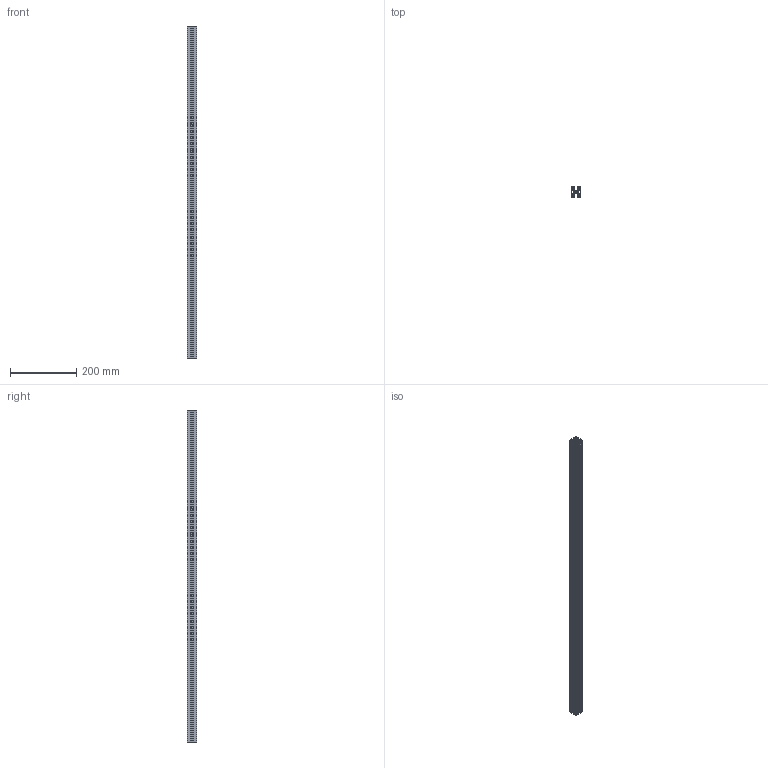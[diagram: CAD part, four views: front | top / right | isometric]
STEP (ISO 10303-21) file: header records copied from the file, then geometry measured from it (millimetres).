
FILE_DESCRIPTION((''),'2;1');
FILE_NAME('\\Dtp_2\share\iriguchi2\M6フレーム\AFS-3030L-6.stp','2014-11-27T10:33:48',('AMS8'),(''),'Autodesk Inventor 2008','Autodesk Inventor 2008','');
FILE_SCHEMA(('AUTOMOTIVE_DESIGN { 1 0 10303 214 1 1 1 1 }'));
Length unit declared in the file: millimetre
Products named in the file (1): Part22
Bounding box: 30 x 30 x 1000 mm (x, y, z)
Volume: 347621.8 mm3; surface area: 359350 mm2
Topology: 1 solids, 1 shells, 267 faces, 795 edges, 530 vertices
Faces by surface type: cylinder 149, plane 118
Full cylindrical faces by diameter (mm): 5 x1
Entity records: 9108 total; most frequent: DIRECTION 1628, CARTESIAN_POINT 1592, ORIENTED_EDGE 1588, EDGE_CURVE 794, AXIS2_PLACEMENT_3D 566, VERTEX_POINT 530, VECTOR 496, LINE 496
